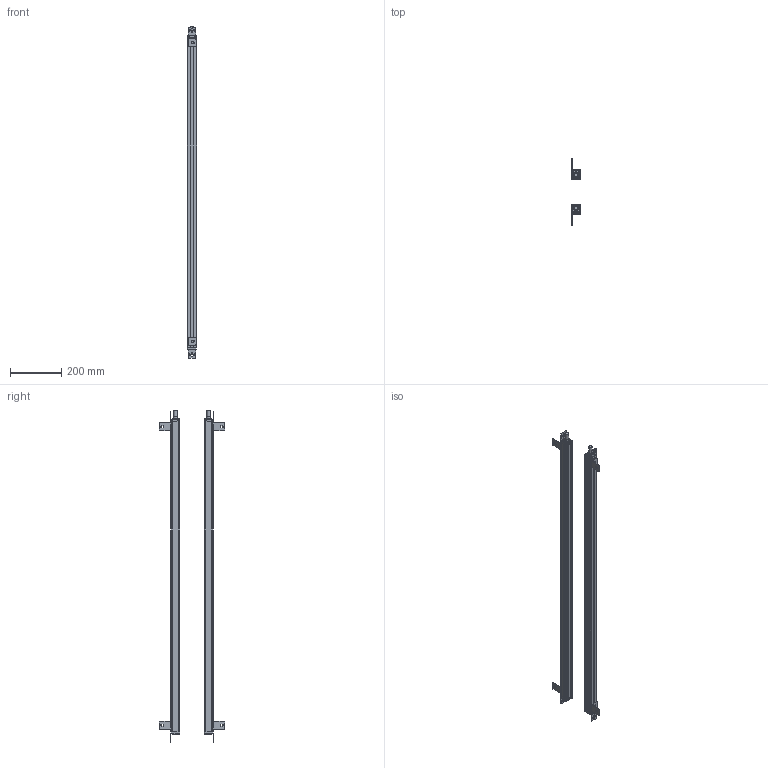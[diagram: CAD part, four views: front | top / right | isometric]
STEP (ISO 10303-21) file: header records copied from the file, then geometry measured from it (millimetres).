
FILE_DESCRIPTION(/* description */ (''),/* implementation_level */ '2;1');
FILE_NAME(/* name */ '3040_35X35.stp',/* time_stamp */ '2023-09-18T15:58:08+08:00',/* author */ (''),/* organization */ (''),/* preprocessor_version */ 'ST-DEVELOPER v16.7',/* originating_system */ 'SIEMENS PLM Software NX 12.0',/* authorisation */ '');
FILE_SCHEMA (('AP203_CONFIGURATION_CONTROLLED_3D_DESIGN_OF_MECHANICAL_PARTS_AND_ASSEMBLIES_MIM_LF { 1 0 10303 403 2 1 2}'));
Length unit declared in the file: millimetre
Products named in the file (1): 3040_35X35_stp
Bounding box: 35.41 x 258.01 x 1301.6 mm (x, y, z)
Volume: 1197210.8 mm3; surface area: 899730.2 mm2
Topology: 28 solids, 28 shells, 1182 faces, 3360 edges, 2260 vertices
Faces by surface type: plane 658, cylinder 464, cone 60
Full cylindrical faces by diameter (mm): 3.2 x8, 6 x24, 13 x2, 14.4 x2, 15 x2
Entity records: 39055 total; most frequent: DIRECTION 6832, CARTESIAN_POINT 6745, ORIENTED_EDGE 6612, EDGE_CURVE 3306, AXIS2_PLACEMENT_3D 2347, VERTEX_POINT 2244, LINE 2138, VECTOR 2138
